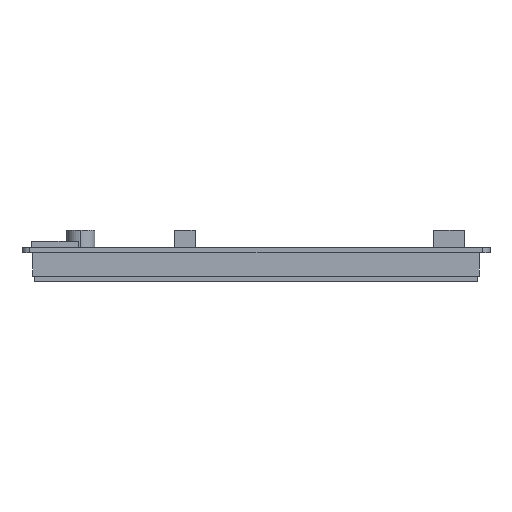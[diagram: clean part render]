
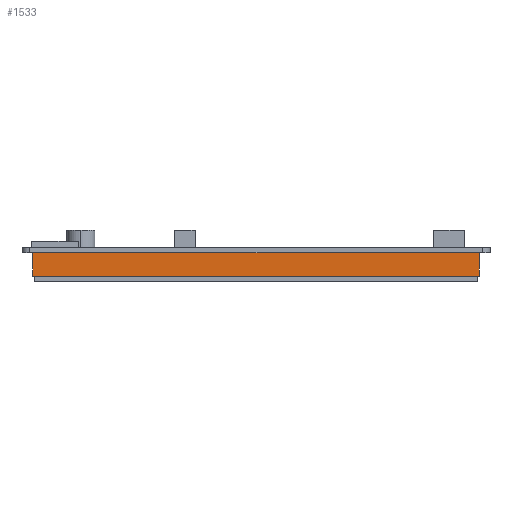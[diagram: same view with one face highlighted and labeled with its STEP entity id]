
A CAD part, left-side view. The second image highlights one B-rep face of the part: STEP entity #1533.
In plain terms, the highlighted planar face has unit normal (-1, 0, 0).
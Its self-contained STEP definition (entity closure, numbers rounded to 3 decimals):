
#325=DIRECTION('',(0.,1.,0.));
#326=VECTOR('',#325,67.089);
#327=CARTESIAN_POINT('',(-92.056,-71.,-1.6));
#328=LINE('',#327,#326);
#343=DIRECTION('',(0.,1.,0.));
#344=VECTOR('',#343,67.343);
#345=CARTESIAN_POINT('',(-92.056,3.657,-1.6));
#346=LINE('',#345,#344);
#483=DIRECTION('',(0.,0.,-1.));
#484=VECTOR('',#483,7.5);
#485=CARTESIAN_POINT('',(-92.056,-71.,-1.6));
#486=LINE('',#485,#484);
#495=DIRECTION('',(0.,0.,-1.));
#496=VECTOR('',#495,7.5);
#497=CARTESIAN_POINT('',(-92.056,71.,-1.6));
#498=LINE('',#497,#496);
#499=DIRECTION('',(0.,1.,0.));
#500=VECTOR('',#499,142.);
#501=CARTESIAN_POINT('',(-92.056,-71.,-9.1));
#502=LINE('',#501,#500);
#567=DIRECTION('',(0.,1.,0.));
#568=VECTOR('',#567,7.568);
#569=CARTESIAN_POINT('',(-92.056,-3.911,-1.6));
#570=LINE('',#569,#568);
#1003=CARTESIAN_POINT('',(-92.056,-71.,-9.1));
#1004=CARTESIAN_POINT('',(-92.056,71.,-9.1));
#1005=VERTEX_POINT('',#1003);
#1006=VERTEX_POINT('',#1004);
#1011=CARTESIAN_POINT('',(-92.056,-71.,-1.6));
#1012=CARTESIAN_POINT('',(-92.056,-3.911,-1.6));
#1013=VERTEX_POINT('',#1011);
#1014=VERTEX_POINT('',#1012);
#1015=CARTESIAN_POINT('',(-92.056,3.657,-1.6));
#1016=CARTESIAN_POINT('',(-92.056,71.,-1.6));
#1017=VERTEX_POINT('',#1015);
#1018=VERTEX_POINT('',#1016);
#1516=CARTESIAN_POINT('',(-92.056,-71.,-1.6));
#1517=DIRECTION('',(-1.,0.,0.));
#1518=DIRECTION('',(0.,1.,0.));
#1519=AXIS2_PLACEMENT_3D('',#1516,#1517,#1518);
#1520=PLANE('',#1519);
#1521=ORIENTED_EDGE('',*,*,#1237,.F.);
#1523=ORIENTED_EDGE('',*,*,#1522,.T.);
#1525=ORIENTED_EDGE('',*,*,#1524,.T.);
#1527=ORIENTED_EDGE('',*,*,#1526,.F.);
#1528=ORIENTED_EDGE('',*,*,#1245,.F.);
#1530=ORIENTED_EDGE('',*,*,#1529,.F.);
#1531=EDGE_LOOP('',(#1521,#1523,#1525,#1527,#1528,#1530));
#1532=FACE_OUTER_BOUND('',#1531,.F.);
#1237=EDGE_CURVE('',#1013,#1014,#328,.T.);
#1245=EDGE_CURVE('',#1017,#1018,#346,.T.);
#1522=EDGE_CURVE('',#1013,#1005,#486,.T.);
#1524=EDGE_CURVE('',#1005,#1006,#502,.T.);
#1526=EDGE_CURVE('',#1018,#1006,#498,.T.);
#1529=EDGE_CURVE('',#1014,#1017,#570,.T.);
#1533=ADVANCED_FACE('',(#1532),#1520,.T.);
